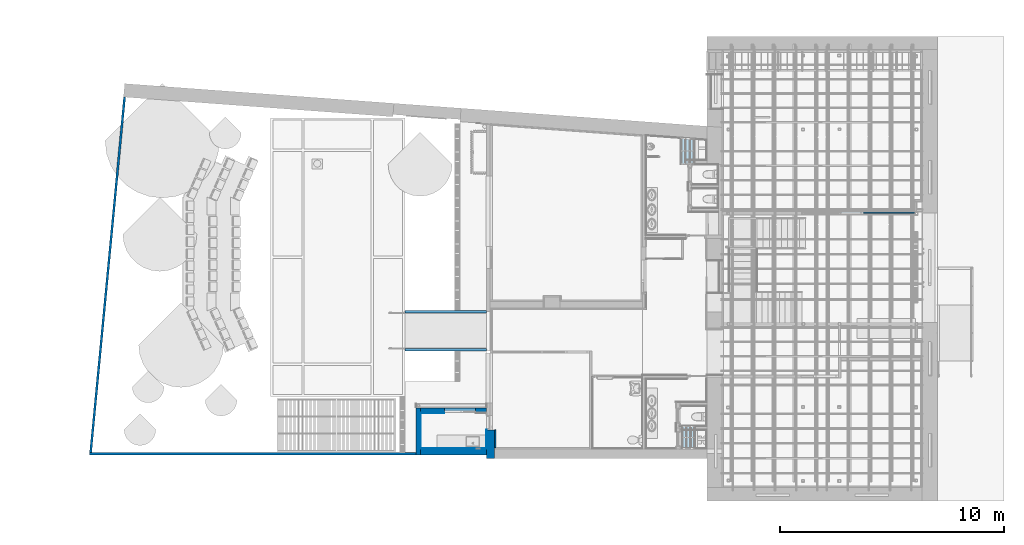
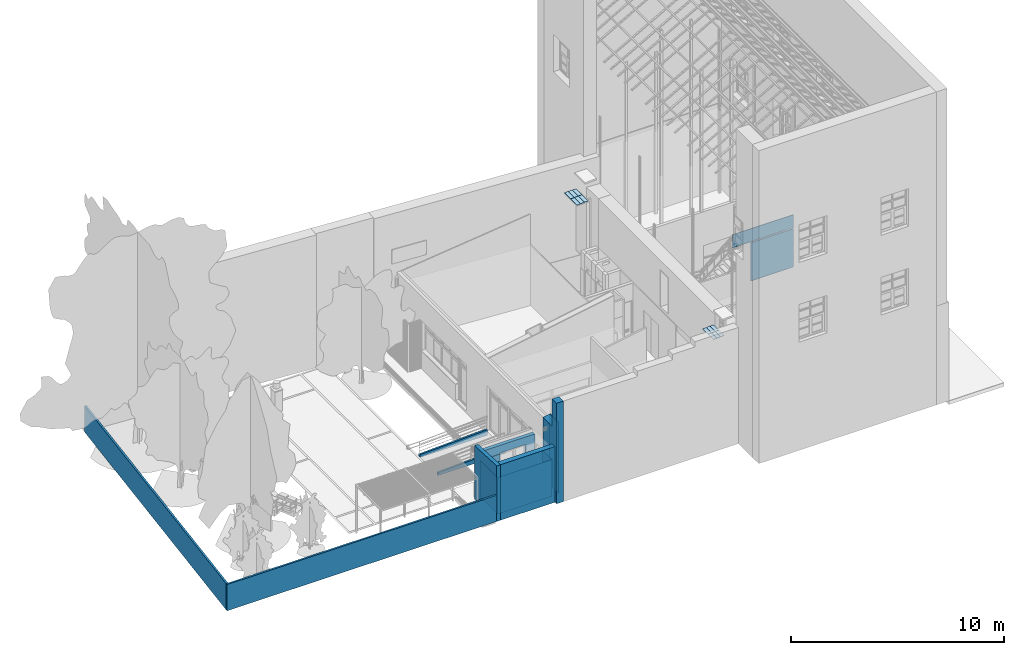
# One storey, part 32 of 75: 14 plates, 13 walls, 2 openings, 3 elements without a shape of their own.
"""IFC2X3 building model written with IfcOpenShell, lengths in metres."""

from ifc_helpers import new_model, entity, si_unit, converted_unit, derived_unit, direction, frame, frame_2d, origin, origin_2d_with_axis, place, context, subcontext, project, spatial, polyline, rectangle, outline, extrude, clip, halfspace, bounded_halfspace, source, transform, mapped, material, material_list, layer, layer_set, layer_usage, type_object, type_shapes, element, aggregate, save


model = new_model("IFC2X3")

# Units and contexts
model_context = context("Model", 3, precision=1e-05, world=origin(), true_north=direction((6.12303176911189e-17, 1.0)))
body_context = subcontext(model_context, "Body", "Model", "MODEL_VIEW")
ifc_project = project(units=[si_unit("LENGTHUNIT", "METRE"), si_unit("AREAUNIT", "SQUARE_METRE"), si_unit("VOLUMEUNIT", "CUBIC_METRE"), converted_unit("PLANEANGLEUNIT", "DEGREE", entity("IfcRatioMeasure", 0.0174532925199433), si_unit("PLANEANGLEUNIT", "RADIAN"), dimensions=[0, 0, 0, 0, 0, 0, 0]), si_unit("MASSUNIT", "GRAM", prefix="KILO"), derived_unit("MASSDENSITYUNIT", [(si_unit("MASSUNIT", "GRAM", prefix="KILO"), 1), (si_unit("LENGTHUNIT", "METRE"), -3)]), derived_unit("MOMENTOFINERTIAUNIT", [(si_unit("LENGTHUNIT", "METRE"), 4)]), si_unit("TIMEUNIT", "SECOND"), si_unit("FREQUENCYUNIT", "HERTZ"), si_unit("THERMODYNAMICTEMPERATUREUNIT", "DEGREE_CELSIUS"), derived_unit("THERMALTRANSMITTANCEUNIT", [(si_unit("MASSUNIT", "GRAM", prefix="KILO"), 1), (si_unit("THERMODYNAMICTEMPERATUREUNIT", "KELVIN"), -1), (si_unit("TIMEUNIT", "SECOND"), -3)]), derived_unit("VOLUMETRICFLOWRATEUNIT", [(si_unit("LENGTHUNIT", "METRE"), 3), (si_unit("TIMEUNIT", "SECOND"), -1)]), si_unit("ELECTRICCURRENTUNIT", "AMPERE"), si_unit("ELECTRICVOLTAGEUNIT", "VOLT"), si_unit("POWERUNIT", "WATT"), si_unit("FORCEUNIT", "NEWTON", prefix="KILO"), si_unit("ILLUMINANCEUNIT", "LUX"), si_unit("LUMINOUSFLUXUNIT", "LUMEN"), si_unit("LUMINOUSINTENSITYUNIT", "CANDELA"), derived_unit("USERDEFINED", [(si_unit("MASSUNIT", "GRAM", prefix="KILO"), -1), (si_unit("LENGTHUNIT", "METRE"), -2), (si_unit("TIMEUNIT", "SECOND"), 3), (si_unit("LUMINOUSFLUXUNIT", "LUMEN"), 1)]), derived_unit("LINEARVELOCITYUNIT", [(si_unit("LENGTHUNIT", "METRE"), 1), (si_unit("TIMEUNIT", "SECOND"), -1)]), si_unit("PRESSUREUNIT", "PASCAL"), derived_unit("USERDEFINED", [(si_unit("LENGTHUNIT", "METRE"), -2), (si_unit("MASSUNIT", "GRAM", prefix="KILO"), 1), (si_unit("TIMEUNIT", "SECOND"), -2)]), derived_unit("LINEARFORCEUNIT", [(si_unit("MASSUNIT", "GRAM", prefix="KILO"), 1), (si_unit("LENGTHUNIT", "METRE"), 1), (si_unit("TIMEUNIT", "SECOND"), -2), (si_unit("LENGTHUNIT", "METRE"), -1)]), derived_unit("PLANARFORCEUNIT", [(si_unit("MASSUNIT", "GRAM", prefix="KILO"), 1), (si_unit("LENGTHUNIT", "METRE"), 1), (si_unit("TIMEUNIT", "SECOND"), -2), (si_unit("LENGTHUNIT", "METRE"), -2)])], contexts=[model_context])

# Site, building, storey
site_placement = place(None, origin())
site = spatial("IfcSite", under=ifc_project, at=site_placement, Name="Superficie", CompositionType="ELEMENT")
building_placement = place(site_placement, origin())
building = spatial("IfcBuilding", under=site, at=building_placement, Name="Telegestiones", CompositionType="ELEMENT")
storey_placement = place(building_placement, origin())
storey = spatial("IfcBuildingStorey", under=building, at=storey_placement, Name="Nivel 0_NPT", CompositionType="ELEMENT", Elevation=0.0)

# Curtain wall, plates
curtain_wall_type_1 = type_object("IfcCurtainWallType", PredefinedType="NOTDEFINED")
curtain_wall_placement = place(storey_placement, origin())
curtain_wall = element("IfcCurtainWall", 1, at=curtain_wall_placement, inside=storey, type_object=curtain_wall_type_1)
ifc_material_1 = material(Name="Vidrio laminado")
ifc_material_2 = material(Name="Aluminio")
ifc_material_list_1 = material_list([ifc_material_1, ifc_material_2])
ifc_material_list_2 = material_list([ifc_material_1, ifc_material_2])
plate_type_1 = type_object("IfcPlateType", Name="ARQ-PA-IN-Vidrio Fijo Laminado :ARQ-PA-IN-Vidrio Fijo Laminado", PredefinedType="CURTAIN_PANEL", material=ifc_material_list_2)
shared_shape_1 = source(origin(), body_context, "Body", "SweptSolid", [
    extrude(rectangle(XDim=0.02, YDim=2.25399977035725, at=origin_2d_with_axis()), frame((0.0, 0.0, 0.0200000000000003), z_axis=(0.0, 0.0, 1.0), x_axis=(0.0, 1.0, 0.0)), (0.0, 0.0, 1.0), 2.16),
    extrude(outline(polyline([(-1.14699988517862, -1.1), (1.14699988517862, -1.1), (1.14699988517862, 1.1), (-1.14699988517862, 1.1), (-1.14699988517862, -1.1)]), holes=[polyline([(-1.12699988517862, -1.08), (-1.12699988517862, 1.08), (1.12699988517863, 1.08), (1.12699988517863, -1.08), (-1.12699988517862, -1.08)])]), frame((0.0, -0.0175, 1.1), z_axis=(0.0, 1.0, 0.0), x_axis=(1.0, 0.0, 0.0)), (0.0, 0.0, 1.0), 0.035),
])
type_shapes(plate_type_1, [shared_shape_1])
plate_1_placement = place(curtain_wall_placement, frame((13.4938127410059, 6.45996042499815, 0.0)))
plate_1 = element("IfcPlate", 2, at=plate_1_placement, type_object=plate_type_1, material=ifc_material_list_1, Name="ARQ-PA-IN-Vidrio Fijo Laminado :ARQ-PA-IN-Vidrio Fijo Laminado", ObjectType="ARQ-PA-IN-Vidrio Fijo Laminado :ARQ-PA-IN-Vidrio Fijo Laminado", context=body_context, shape_type="MappedRepresentation", body=[
    mapped(shared_shape_1, transform((0.0, 0.0, 0.0), scale=1.0)),
])
ifc_material_3 = material(Name="Vidrio")
ifc_material_list_3 = material_list([ifc_material_3, ifc_material_2])
ifc_material_list_4 = material_list([ifc_material_3, ifc_material_2])
plate_type_2 = type_object("IfcPlateType", Name="ARQ-PA-IN-Vidrio Fijo:ARQ-PA-IN-Vidrio Fijo", PredefinedType="CURTAIN_PANEL", material=ifc_material_list_4)
shared_shape_2 = source(origin(), body_context, "Body", "SweptSolid", [
    extrude(rectangle(XDim=0.02, YDim=3.29399977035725, at=origin_2d_with_axis()), frame((0.0, 0.0, 0.0), z_axis=(0.0, 0.0, 1.0), x_axis=(0.0, 1.0, 0.0)), (0.0, 0.0, 1.0), 0.75),
    extrude(outline(polyline([(-1.64699988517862, -0.375), (1.64699988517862, -0.375), (1.64699988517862, 0.375), (-1.64699988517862, 0.375), (-1.64699988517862, -0.375)]), holes=[polyline([(-1.62699988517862, -0.355), (-1.62699988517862, 0.355), (1.62699988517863, 0.355), (1.62699988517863, -0.355), (-1.62699988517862, -0.355)])]), frame((0.0, -0.0175, 0.375), z_axis=(0.0, 1.0, 0.0), x_axis=(1.0, 0.0, 0.0)), (0.0, 0.0, 1.0), 0.035),
])
type_shapes(plate_type_2, [shared_shape_2])
plate_2_placement = place(curtain_wall_placement, frame((12.9938127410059, 6.45996042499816, 2.25)))
plate_2 = element("IfcPlate", 3, at=plate_2_placement, type_object=plate_type_2, material=ifc_material_list_3, Name="ARQ-PA-IN-Vidrio Fijo:ARQ-PA-IN-Vidrio Fijo", ObjectType="ARQ-PA-IN-Vidrio Fijo:ARQ-PA-IN-Vidrio Fijo", context=body_context, shape_type="MappedRepresentation", body=[
    mapped(shared_shape_2, transform((0.0, 0.0, 0.0), scale=1.0)),
])
aggregate(curtain_wall, [plate_1, plate_2])

# Roof, plates
curtain_wall_type_2 = type_object("IfcCurtainWallType", Name="Cristalera inclinada:ARQ-CA-EX-Lucernario", PredefinedType="NOTDEFINED")
roof_1_placement = place(storey_placement, origin())
roof_1 = element("IfcRoof", 4, at=roof_1_placement, inside=storey, type_object=curtain_wall_type_2, Name="Cristalera inclinada:ARQ-CA-EX-Lucernario", ObjectType="Cristalera inclinada:ARQ-CA-EX-Lucernario", ShapeType="NOTDEFINED")
plate_type_3 = type_object("IfcPlateType", Name="Panel de sistema:Acristalado Superor", PredefinedType="CURTAIN_PANEL", material=ifc_material_3)
shared_shape_3 = source(origin(), body_context, "Body", "SweptSolid", [
    extrude(rectangle(XDim=0.01, YDim=0.592242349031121, at=origin_2d_with_axis()), frame((0.0, -0.02, 0.0), z_axis=(0.0, 0.0, 1.0), x_axis=(0.0, 1.0, 0.0)), (0.0, 0.0, 1.0), 0.203524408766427),
])
type_shapes(plate_type_3, [shared_shape_3])
plate_3_placement = place(roof_1_placement, frame((4.80428977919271, 8.91972840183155, 5.89), z_axis=(-0.998204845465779, 0.0, -0.0598922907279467), x_axis=(0.0, 1.0, 0.0)))
plate_3 = element("IfcPlate", 5, at=plate_3_placement, type_object=plate_type_3, material=ifc_material_3, Name="Panel de sistema:Acristalado Superor", ObjectType="Panel de sistema:Acristalado Superor", context=body_context, shape_type="MappedRepresentation", body=[
    mapped(shared_shape_3, transform((0.0, 0.0, 0.0), scale=1.0)),
])
plate_4_placement = place(roof_1_placement, frame((4.6011307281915, 8.91972840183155, 5.87781045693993), z_axis=(-0.998204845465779, 0.0, -0.0598922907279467), x_axis=(0.0, 1.0, 0.0)))
plate_4 = element("IfcPlate", 6, at=plate_4_placement, type_object=plate_type_3, material=ifc_material_3, Name="Panel de sistema:Acristalado Superor", ObjectType="Panel de sistema:Acristalado Superor", context=body_context, shape_type="MappedRepresentation", body=[
    mapped(shared_shape_3, transform((0.0, 0.0, 0.0), scale=1.0)),
])
plate_5_placement = place(roof_1_placement, frame((4.3979716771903, 8.91972840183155, 5.86562091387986), z_axis=(-0.998204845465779, 0.0, -0.0598922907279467), x_axis=(0.0, 1.0, 0.0)))
plate_5 = element("IfcPlate", 7, at=plate_5_placement, type_object=plate_type_3, material=ifc_material_3, Name="Panel de sistema:Acristalado Superor", ObjectType="Panel de sistema:Acristalado Superor", context=body_context, shape_type="MappedRepresentation", body=[
    mapped(shared_shape_3, transform((0.0, 0.0, 0.0), scale=1.0)),
])
plate_type_4 = type_object("IfcPlateType", Name="Panel de sistema:Acristalado Superor", PredefinedType="CURTAIN_PANEL", material=ifc_material_3)
shared_shape_4 = source(origin(), body_context, "Body", "SweptSolid", [
    extrude(outline(polyline([(-0.101762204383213, -0.277530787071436), (0.101762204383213, -0.277530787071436), (0.101762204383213, 0.28496694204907), (-0.101762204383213, 0.270094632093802), (-0.101762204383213, -0.277530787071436)])), frame((-0.00371807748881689, -0.025, 0.101762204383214), z_axis=(0.0, 1.0, 0.0), x_axis=(0.0, 0.0, 1.0)), (0.0, 0.0, 1.0), 0.01),
])
type_shapes(plate_type_4, [shared_shape_4])
plate_6_placement = place(roof_1_placement, frame((4.80428977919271, 9.49709844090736, 5.89), z_axis=(-0.998204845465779, 0.0, -0.0598922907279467), x_axis=(0.0, 1.0, 0.0)))
plate_6 = element("IfcPlate", 8, at=plate_6_placement, type_object=plate_type_4, material=ifc_material_3, Name="Panel de sistema:Acristalado Superor", ObjectType="Panel de sistema:Acristalado Superor", context=body_context, shape_type="MappedRepresentation", body=[
    mapped(shared_shape_4, transform((0.0, 0.0, 0.0), scale=1.0)),
])
plate_type_5 = type_object("IfcPlateType", Name="Panel de sistema:Acristalado Superor", PredefinedType="CURTAIN_PANEL", material=ifc_material_3)
shared_shape_5 = source(origin(), body_context, "Body", "SweptSolid", [
    extrude(outline(polyline([(-0.101762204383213, -0.284966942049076), (0.101762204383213, -0.284966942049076), (0.101762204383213, 0.292403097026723), (-0.101762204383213, 0.27753078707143), (-0.101762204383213, -0.284966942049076)])), frame((-0.00371807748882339, -0.025, 0.101762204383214), z_axis=(0.0, 1.0, 0.0), x_axis=(0.0, 0.0, 1.0)), (0.0, 0.0, 1.0), 0.01),
])
type_shapes(plate_type_5, [shared_shape_5])
plate_7_placement = place(roof_1_placement, frame((4.6011307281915, 9.50453459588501, 5.87781045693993), z_axis=(-0.998204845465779, 0.0, -0.0598922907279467), x_axis=(0.0, 1.0, 0.0)))
plate_7 = element("IfcPlate", 9, at=plate_7_placement, type_object=plate_type_5, material=ifc_material_3, Name="Panel de sistema:Acristalado Superor", ObjectType="Panel de sistema:Acristalado Superor", context=body_context, shape_type="MappedRepresentation", body=[
    mapped(shared_shape_5, transform((0.0, 0.0, 0.0), scale=1.0)),
])
plate_type_6 = type_object("IfcPlateType", Name="Panel de sistema:Acristalado Superor", PredefinedType="CURTAIN_PANEL", material=ifc_material_3)
shared_shape_6 = source(origin(), body_context, "Body", "SweptSolid", [
    extrude(outline(polyline([(-0.101762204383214, -0.292403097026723), (0.101762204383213, -0.292403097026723), (0.101762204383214, 0.29983925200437), (-0.101762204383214, 0.284966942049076), (-0.101762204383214, -0.292403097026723)])), frame((-0.00371807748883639, -0.025, 0.101762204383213), z_axis=(0.0, 1.0, 0.0), x_axis=(0.0, 0.0, 1.0)), (0.0, 0.0, 1.0), 0.01),
])
type_shapes(plate_type_6, [shared_shape_6])
plate_8_placement = place(roof_1_placement, frame((4.3979716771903, 9.51197075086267, 5.86562091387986), z_axis=(-0.998204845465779, 0.0, -0.0598922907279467), x_axis=(0.0, 1.0, 0.0)))
plate_8 = element("IfcPlate", 10, at=plate_8_placement, type_object=plate_type_6, material=ifc_material_3, Name="Panel de sistema:Acristalado Superor", ObjectType="Panel de sistema:Acristalado Superor", context=body_context, shape_type="MappedRepresentation", body=[
    mapped(shared_shape_6, transform((0.0, 0.0, 0.0), scale=1.0)),
])
aggregate(roof_1, [plate_3, plate_6, plate_4, plate_7, plate_5, plate_8])

roof_2_placement = place(storey_placement, origin())
roof_2 = element("IfcRoof", 11, at=roof_2_placement, inside=storey, type_object=curtain_wall_type_2, Name="Cristalera inclinada:ARQ-CA-EX-Lucernario", ObjectType="Cristalera inclinada:ARQ-CA-EX-Lucernario", ShapeType="NOTDEFINED")
plate_type_7 = type_object("IfcPlateType", Name="Panel de sistema:Acristalado Superor", PredefinedType="CURTAIN_PANEL", material=ifc_material_3)
shared_shape_7 = source(origin(), body_context, "Body", "SweptSolid", [
    extrude(rectangle(XDim=0.01, YDim=0.507049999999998, at=origin_2d_with_axis()), frame((0.0, -0.02, 0.0), z_axis=(0.0, 0.0, 1.0), x_axis=(0.0, 1.0, 0.0)), (0.0, 0.0, 1.0), 0.193506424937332),
])
type_shapes(plate_type_7, [shared_shape_7])
plate_9_placement = place(roof_2_placement, frame((4.82428977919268, -3.832867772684, 5.89), z_axis=(-0.998204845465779, 0.0, -0.0598922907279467), x_axis=(0.0, 1.0, 0.0)))
plate_9 = element("IfcPlate", 12, at=plate_9_placement, type_object=plate_type_7, material=ifc_material_3, Name="Panel de sistema:Acristalado Superor", ObjectType="Panel de sistema:Acristalado Superor", context=body_context, shape_type="MappedRepresentation", body=[
    mapped(shared_shape_7, transform((0.0, 0.0, 0.0), scale=1.0)),
])
plate_10_placement = place(roof_2_placement, frame((4.82428977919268, -3.325817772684, 5.89), z_axis=(-0.998204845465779, 0.0, -0.0598922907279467), x_axis=(0.0, 1.0, 0.0)))
plate_10 = element("IfcPlate", 13, at=plate_10_placement, type_object=plate_type_7, material=ifc_material_3, Name="Panel de sistema:Acristalado Superor", ObjectType="Panel de sistema:Acristalado Superor", context=body_context, shape_type="MappedRepresentation", body=[
    mapped(shared_shape_7, transform((0.0, 0.0, 0.0), scale=1.0)),
])
plate_11_placement = place(roof_2_placement, frame((4.63113072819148, -3.832867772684, 5.87841045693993), z_axis=(-0.998204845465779, 0.0, -0.0598922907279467), x_axis=(0.0, 1.0, 0.0)))
plate_11 = element("IfcPlate", 14, at=plate_11_placement, type_object=plate_type_7, material=ifc_material_3, Name="Panel de sistema:Acristalado Superor", ObjectType="Panel de sistema:Acristalado Superor", context=body_context, shape_type="MappedRepresentation", body=[
    mapped(shared_shape_7, transform((0.0, 0.0, 0.0), scale=1.0)),
])
plate_12_placement = place(roof_2_placement, frame((4.63113072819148, -3.325817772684, 5.87841045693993), z_axis=(-0.998204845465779, 0.0, -0.0598922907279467), x_axis=(0.0, 1.0, 0.0)))
plate_12 = element("IfcPlate", 15, at=plate_12_placement, type_object=plate_type_7, material=ifc_material_3, Name="Panel de sistema:Acristalado Superor", ObjectType="Panel de sistema:Acristalado Superor", context=body_context, shape_type="MappedRepresentation", body=[
    mapped(shared_shape_7, transform((0.0, 0.0, 0.0), scale=1.0)),
])
plate_13_placement = place(roof_2_placement, frame((4.43797167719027, -3.832867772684, 5.86682091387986), z_axis=(-0.998204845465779, 0.0, -0.0598922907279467), x_axis=(0.0, 1.0, 0.0)))
plate_13 = element("IfcPlate", 16, at=plate_13_placement, type_object=plate_type_7, material=ifc_material_3, Name="Panel de sistema:Acristalado Superor", ObjectType="Panel de sistema:Acristalado Superor", context=body_context, shape_type="MappedRepresentation", body=[
    mapped(shared_shape_7, transform((0.0, 0.0, 0.0), scale=1.0)),
])
plate_14_placement = place(roof_2_placement, frame((4.43797167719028, -3.325817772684, 5.86682091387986), z_axis=(-0.998204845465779, 0.0, -0.0598922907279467), x_axis=(0.0, 1.0, 0.0)))
plate_14 = element("IfcPlate", 17, at=plate_14_placement, type_object=plate_type_7, material=ifc_material_3, Name="Panel de sistema:Acristalado Superor", ObjectType="Panel de sistema:Acristalado Superor", context=body_context, shape_type="MappedRepresentation", body=[
    mapped(shared_shape_7, transform((0.0, 0.0, 0.0), scale=1.0)),
])
aggregate(roof_2, [plate_9, plate_10, plate_11, plate_12, plate_13, plate_14])

# Wall
ifc_material_4 = material(Name="Muro por defecto")
ifc_layer_1 = layer(ifc_material_4, 0.02)
ifc_layer_2 = layer(ifc_material_4, 0.18)
ifc_layer_set_1 = layer_set([ifc_layer_1, ifc_layer_2], Name="Muro básico:ARQ-MU-EX-20-Gen")
ifc_layer_usage_1 = layer_usage(ifc_layer_set_1, "AXIS2", "NEGATIVE", 0.1)
wall_type_1 = type_object("IfcWallType", Name="Muro básico:ARQ-MU-EX-20-Gen", PredefinedType="STANDARD", material=ifc_layer_set_1)
wall_1_placement = place(storey_placement, frame((-7.54518737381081, -4.35639277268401, -0.2), z_axis=(0.0, 0.0, 1.0), x_axis=(0.0, 1.0, 0.0)))
element("IfcWallStandardCase", 18, at=wall_1_placement, inside=storey, type_object=wall_type_1, material=ifc_layer_usage_1, Name="Muro básico:ARQ-MU-EX-20-Gen", ObjectType="Muro básico:ARQ-MU-EX-20-Gen", context=body_context, shape_type="Clipping", body=[
    clip(extrude(rectangle(XDim=2.09000000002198, YDim=0.2, at=frame_2d((1.04500000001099, -2.08166817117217e-16), x_axis=(-1.0, 0.0))), origin(), (0.0, 0.0, 1.0), 3.18), halfspace(frame((0.27000000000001, -0.100000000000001, 3.18), z_axis=(0.0499376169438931, 0.0, 0.998752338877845), x_axis=(0.0, 1.0, 0.0)), False)),
])

# Wall, opening
ifc_layer_usage_2 = layer_usage(ifc_layer_set_1, "AXIS2", "NEGATIVE", 0.1)
wall_2_placement = place(storey_placement, frame((-7.44518737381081, -2.36639277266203, -0.2)))
wall_2 = element("IfcWallStandardCase", 19, at=wall_2_placement, inside=storey, type_object=wall_type_1, material=ifc_layer_usage_2, Name="Muro básico:ARQ-MU-EX-20-Gen", ObjectType="Muro básico:ARQ-MU-EX-20-Gen", context=body_context, shape_type="Clipping", body=[
    clip(extrude(rectangle(XDim=2.95999999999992, YDim=0.2, at=frame_2d((1.47999999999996, 1.17961196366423e-16), x_axis=(-1.0, 0.0))), origin(), (0.0, 0.0, 1.0), 2.7619999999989), bounded_halfspace(frame((0.0, -0.0999999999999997, 2.7619999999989), z_axis=(0.0, 0.0499376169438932, 0.998752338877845), x_axis=(-1.0, 0.0, 0.0)), False, frame((0.0, -0.0999999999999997, 2.7619999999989)), polyline([(0.0, 0.0), (2.95999999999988, 0.0), (2.95999999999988, 0.2), (0.0, 0.2), (0.0, 0.0)]))),
])
opening_1_placement = place(wall_2_placement, origin())
element("IfcOpeningElement", 20, at=opening_1_placement, cuts=wall_2, Name="Muro básico:ARQ-MU-EX-20-Gen", ObjectType="Opening", context=body_context, shape_type="SweptSolid", body=[
    extrude(rectangle(XDim=2.15, YDim=1.4, at=frame_2d((-1.11022302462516e-16, 5.55111512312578e-16), x_axis=(1.0, 0.0))), frame((1.77000000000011, -0.252399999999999, 1.255), z_axis=(0.0, 1.0, 0.0), x_axis=(0.0, 0.0, 1.0)), (0.0, 0.0, 1.0), 0.504799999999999),
])

ifc_layer_3 = layer(ifc_material_4, 0.36)
ifc_layer_set_2 = layer_set([ifc_layer_3], Name="Muro básico:ARQ-MU-EX-36-Gen")
ifc_layer_usage_3 = layer_usage(ifc_layer_set_2, "AXIS2", "POSITIVE", -0.18)
wall_type_2 = type_object("IfcWallType", Name="Muro básico:ARQ-MU-EX-36-Gen", PredefinedType="STANDARD", material=ifc_layer_set_2)
wall_3_placement = place(storey_placement, frame((-4.30518737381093, -3.23639277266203, -0.2), z_axis=(0.0, 0.0, 1.0), x_axis=(0.0, -1.0, 0.0)))
wall_3 = element("IfcWallStandardCase", 21, at=wall_3_placement, inside=storey, type_object=wall_type_2, material=ifc_layer_usage_3, Name="Muro básico:ARQ-MU-EX-36-Gen", ObjectType="Muro básico:ARQ-MU-EX-36-Gen", context=body_context, shape_type="Clipping", body=[
    clip(extrude(rectangle(XDim=1.27000000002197, YDim=0.36, at=frame_2d((0.635000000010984, 2.08166817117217e-16), x_axis=(-1.0, 0.0))), origin(), (0.0, 0.0, 1.0), 5.75), bounded_halfspace(frame((0.0, -0.18, 4.184), z_axis=(0.0, -0.177152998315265, 0.984183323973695), x_axis=(1.0, 0.0, 0.0)), False, frame((0.0, -0.18, 4.184)), polyline([(0.0, 0.0), (0.850000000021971, 0.0), (0.85000000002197, 0.36), (0.0, 0.36), (0.0, 0.250000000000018), (0.0, 0.149999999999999), (0.0, 0.0)]))),
])
opening_2_placement = place(wall_3_placement, origin())
element("IfcOpeningElement", 22, at=opening_2_placement, cuts=wall_3, Name="Muro básico:ARQ-MU-EX-36-Gen", ObjectType="Opening", context=body_context, shape_type="SweptSolid", body=[
    extrude(rectangle(XDim=2.09999999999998, YDim=0.650000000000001, at=frame_2d((0.0, 0.0), x_axis=(0.0, 1.0))), frame((-0.324999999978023, -1.704, 1.24999999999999), z_axis=(0.0, 1.0, 0.0), x_axis=(-1.0, 0.0, 0.0)), (0.0, 0.0, 1.0), 3.048),
])

# Walls
ifc_layer_4 = layer(ifc_material_4, 0.1)
ifc_layer_set_3 = layer_set([ifc_layer_4], Name="Muro básico:ARQ-MU-EX-10-Gen")
ifc_layer_usage_4 = layer_usage(ifc_layer_set_3, "AXIS2", "POSITIVE", -0.05)
wall_type_3 = type_object("IfcWallType", Name="Muro básico:ARQ-MU-EX-10-Gen", PredefinedType="STANDARD", material=ifc_layer_set_3)
wall_4_placement = place(storey_placement, frame((-7.64518737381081, -4.30639277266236, -0.2), z_axis=(0.0, 0.0, 1.0), x_axis=(-1.0, 0.0, 0.0)))
element("IfcWallStandardCase", 23, at=wall_4_placement, inside=storey, type_object=wall_type_3, material=ifc_layer_usage_4, Name="Muro básico:ARQ-MU-EX-10-Gen", ObjectType="Muro básico:ARQ-MU-EX-10-Gen", context=body_context, shape_type="SweptSolid", body=[
    extrude(outline(polyline([(14.5840938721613, -0.0500000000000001), (14.5936519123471, 0.05), (0.0, 0.0499999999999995), (0.0, -0.05), (14.4836381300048, -0.0500000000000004), (14.5840938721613, -0.0500000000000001)])), origin(), (0.0, 0.0, 1.0), 1.5),
])
ifc_layer_usage_5 = layer_usage(ifc_layer_set_3, "AXIS2", "POSITIVE", -0.05)
wall_5_placement = place(storey_placement, frame((-22.1795080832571, -4.26115011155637, -0.2), z_axis=(0.0, 0.0, 1.0), x_axis=(0.0951467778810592, 0.995463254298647, 0.0)))
element("IfcWallStandardCase", 24, at=wall_5_placement, inside=storey, type_object=wall_type_3, material=ifc_layer_usage_5, Name="Muro básico:ARQ-MU-EX-10-Gen", ObjectType="Muro básico:ARQ-MU-EX-10-Gen", context=body_context, shape_type="SweptSolid", body=[
    extrude(outline(polyline([(15.9628398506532, -0.0500000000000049), (15.9606223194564, 0.0499999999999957), (0.0, 0.049999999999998), (0.00955804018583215, -0.0500000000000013), (15.9628398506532, -0.0500000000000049)])), origin(), (0.0, 0.0, 1.0), 1.5),
])
ifc_layer_usage_6 = layer_usage(ifc_layer_set_3, "AXIS2", "NEGATIVE", 0.05)
wall_6_placement = place(storey_placement, frame((-4.48518737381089, 0.343887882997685, -0.22), z_axis=(0.0, 0.0, 1.0), x_axis=(-1.0, 0.0, 0.0)))
element("IfcWallStandardCase", 25, at=wall_6_placement, inside=storey, type_object=wall_type_3, material=ifc_layer_usage_6, Name="Muro básico:ARQ-MU-EX-10-Gen", ObjectType="Muro básico:ARQ-MU-EX-10-Gen", context=body_context, shape_type="Clipping", body=[
    clip(extrude(rectangle(XDim=3.65355533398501, YDim=0.1, at=frame_2d((1.82677766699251, 0.0), x_axis=(-1.0, 0.0))), origin(), (0.0, 0.0, 1.0), 0.32), halfspace(frame((0.0, -0.05, 0.32), z_axis=(0.0437510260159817, 0.0, 0.999042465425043), x_axis=(0.0, 1.0, 0.0)), False)),
])
ifc_layer_usage_7 = layer_usage(ifc_layer_set_3, "AXIS2", "POSITIVE", -0.05)
wall_7_placement = place(storey_placement, frame((-4.48518737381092, 2.04388788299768, -0.22), z_axis=(0.0, 0.0, 1.0), x_axis=(-1.0, 0.0, 0.0)))
element("IfcWallStandardCase", 26, at=wall_7_placement, inside=storey, type_object=wall_type_3, material=ifc_layer_usage_7, Name="Muro básico:ARQ-MU-EX-10-Gen", ObjectType="Muro básico:ARQ-MU-EX-10-Gen", context=body_context, shape_type="Clipping", body=[
    clip(extrude(rectangle(XDim=3.65355533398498, YDim=0.1, at=frame_2d((1.82677766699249, 0.0), x_axis=(-1.0, 0.0))), origin(), (0.0, 0.0, 1.0), 0.316781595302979), halfspace(frame((0.0, -0.05, 0.316781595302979), z_axis=(0.0428726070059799, 0.0, 0.999080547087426), x_axis=(0.0, 1.0, 0.0)), False)),
])
ifc_layer_5 = layer(ifc_material_4, 0.02)
ifc_layer_6 = layer(ifc_material_4, 0.25)
ifc_layer_set_4 = layer_set([ifc_layer_5, ifc_layer_6], Name="Muro básico:ARQ-MU-EX-27-Gen")
ifc_layer_usage_8 = layer_usage(ifc_layer_set_4, "AXIS2", "POSITIVE", -0.135)
wall_type_4 = type_object("IfcWallType", Name="Muro básico:ARQ-MU-EX-27-Gen", PredefinedType="STANDARD", material=ifc_layer_set_4)
wall_8_placement = place(storey_placement, frame((-7.44518737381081, -4.22139277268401, -0.2)))
element("IfcWallStandardCase", 27, at=wall_8_placement, inside=storey, type_object=wall_type_4, material=ifc_layer_usage_8, Name="Muro básico:ARQ-MU-EX-27-Gen", ObjectType="Muro básico:ARQ-MU-EX-27-Gen", context=body_context, shape_type="SweptSolid", body=[
    extrude(rectangle(XDim=2.95999999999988, YDim=0.27, at=frame_2d((1.47999999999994, 9.71445146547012e-17), x_axis=(-1.0, 0.0))), origin(), (0.0, 0.0, 1.0), 3.18),
])
ifc_material_5 = material(Name="Placa yeso entera")
ifc_layer_7 = layer(ifc_material_5, 0.012)
ifc_material_6 = material(Name="Estructura de Hierro Galvanizado")
ifc_layer_8 = layer(ifc_material_6, 0.038)
ifc_layer_set_5 = layer_set([ifc_layer_7, ifc_layer_8], Name="Muro básico:ARQ-RE-IN-5-Ye-M2")
ifc_layer_usage_9 = layer_usage(ifc_layer_set_5, "AXIS2", "POSITIVE", -0.025)
wall_type_5 = type_object("IfcWallType", Name="Muro básico:ARQ-RE-IN-5-Ye-M2", PredefinedType="STANDARD", material=ifc_layer_set_5)
wall_9_placement = place(storey_placement, frame((-4.10018737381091, -4.03639277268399, -0.0199999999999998), z_axis=(0.0, 0.0, 1.0), x_axis=(0.0, 1.0, 0.0)))
element("IfcWallStandardCase", 28, at=wall_9_placement, inside=storey, type_object=wall_type_5, material=ifc_layer_usage_9, Name="Muro básico:ARQ-RE-IN-5-Ye-M2", ObjectType="Muro básico:ARQ-RE-IN-5-Ye-M2", context=body_context, shape_type="Clipping", body=[
    clip(extrude(rectangle(XDim=0.800000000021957, YDim=0.0499999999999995, at=frame_2d((0.400000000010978, -4.85722573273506e-17), x_axis=(-1.0, 0.0))), origin(), (0.0, 0.0, 1.0), 4.0778), bounded_halfspace(frame((0.0, -0.0250000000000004, 4.0778), z_axis=(0.0, 0.177152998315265, 0.984183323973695), x_axis=(-1.0, 0.0, 0.0)), False, frame((0.0, -0.0250000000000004, 4.0778)), polyline([(0.0, 0.0), (0.800000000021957, 0.0), (0.800000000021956, 0.0499999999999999), (0.0, 0.05), (0.0, 0.0)]))),
])
ifc_material_7 = material(Name="Hormigón, Moldeado in situ, gris")
ifc_layer_9 = layer(ifc_material_7, 0.01)
ifc_material_8 = material(Name="Ceramica - Ferrum - Blanco")
ifc_layer_10 = layer(ifc_material_8, 0.01)
ifc_layer_set_6 = layer_set([ifc_layer_9, ifc_layer_10], Name="Muro básico:ARQ-RE-IN-2-Cer")
ifc_layer_usage_10 = layer_usage(ifc_layer_set_6, "AXIS2", "POSITIVE", -0.01)
wall_type_6 = type_object("IfcWallType", Name="Muro básico:ARQ-RE-IN-2-Cer", PredefinedType="STANDARD", material=ifc_layer_set_6)
wall_10_placement = place(storey_placement, frame((-4.49518737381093, -4.08639277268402, -0.0200000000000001), z_axis=(0.0, 0.0, 1.0), x_axis=(0.0, 1.0, 0.0)))
element("IfcWallStandardCase", 29, at=wall_10_placement, inside=storey, type_object=wall_type_6, material=ifc_layer_usage_10, Name="Muro básico:ARQ-RE-IN-2-Cer", ObjectType="Muro básico:ARQ-RE-IN-2-Cer", context=body_context, shape_type="SweptSolid", body=[
    extrude(rectangle(XDim=0.850000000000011, YDim=0.0199999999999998, at=frame_2d((0.425000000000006, 0.0), x_axis=(-1.0, 0.0))), origin(), (0.0, 0.0, 1.0), 2.1),
])
ifc_layer_usage_11 = layer_usage(ifc_layer_set_6, "AXIS2", "NEGATIVE", 0.01)
wall_11_placement = place(storey_placement, frame((-4.50518737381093, -4.07639277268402, -0.0200000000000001), z_axis=(0.0, 0.0, 1.0), x_axis=(-1.0, 0.0, 0.0)))
element("IfcWallStandardCase", 30, at=wall_11_placement, inside=storey, type_object=wall_type_6, material=ifc_layer_usage_11, Name="Muro básico:ARQ-RE-IN-2-Cer", ObjectType="Muro básico:ARQ-RE-IN-2-Cer", context=body_context, shape_type="SweptSolid", body=[
    extrude(outline(polyline([(2.91999999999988, -0.01), (2.93999999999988, 0.00999999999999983), (0.0, 0.00999999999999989), (0.0, -0.00999999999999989), (2.91999999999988, -0.01)])), origin(), (0.0, 0.0, 1.0), 2.1),
])
ifc_layer_usage_12 = layer_usage(ifc_layer_set_6, "AXIS2", "NEGATIVE", 0.01)
wall_12_placement = place(storey_placement, frame((-7.43518737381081, -4.08639277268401, -0.0200000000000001), z_axis=(0.0, 0.0, 1.0), x_axis=(0.0, 1.0, 0.0)))
element("IfcWallStandardCase", 31, at=wall_12_placement, inside=storey, type_object=wall_type_6, material=ifc_layer_usage_12, Name="Muro básico:ARQ-RE-IN-2-Cer", ObjectType="Muro básico:ARQ-RE-IN-2-Cer", context=body_context, shape_type="SweptSolid", body=[
    extrude(outline(polyline([(1.62000000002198, -0.00999999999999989), (1.62000000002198, 0.00999999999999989), (0.0, 0.00999999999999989), (0.0199999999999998, -0.00999999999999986), (1.60000000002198, -0.00999999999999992), (1.62000000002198, -0.00999999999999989)])), origin(), (0.0, 0.0, 1.0), 2.1),
])
ifc_layer_usage_13 = layer_usage(ifc_layer_set_6, "AXIS2", "NEGATIVE", 0.01)
wall_13_placement = place(storey_placement, frame((-7.42518737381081, -2.47639277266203, -0.0200000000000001)))
element("IfcWallStandardCase", 32, at=wall_13_placement, inside=storey, type_object=wall_type_6, material=ifc_layer_usage_13, Name="Muro básico:ARQ-RE-IN-2-Cer", ObjectType="Muro básico:ARQ-RE-IN-2-Cer", context=body_context, shape_type="SweptSolid", body=[
    extrude(rectangle(XDim=1.05000000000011, YDim=0.0199999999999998, at=frame_2d((0.525000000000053, -3.03576608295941e-17), x_axis=(-1.0, 0.0))), origin(), (0.0, 0.0, 1.0), 2.1),
])

save(model, "model.ifc")
